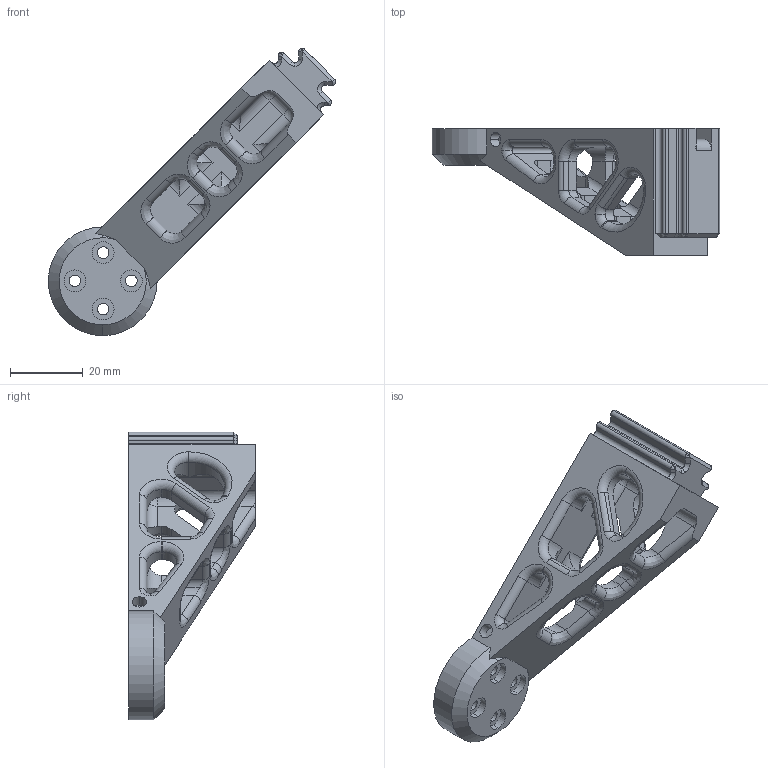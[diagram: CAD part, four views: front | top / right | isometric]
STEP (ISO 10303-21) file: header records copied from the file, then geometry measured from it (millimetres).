
FILE_DESCRIPTION (( 'STEP AP214' ), '1' );
FILE_NAME ('Arms.STEP', '2026-03-15T19:18:49', ( '' ), ( '' ), 'SwSTEP 2.0', 'SolidWorks 2026', '' );
FILE_SCHEMA (( 'AUTOMOTIVE_DESIGN' ));
Length unit declared in the file: millimetre
Products named in the file (1): Arms
Bounding box: 79.23 x 35 x 79.23 mm (x, y, z)
Volume: 26392.3 mm3; surface area: 12431.9 mm2
Topology: 1 solids, 1 shells, 241 faces, 625 edges, 376 vertices
Faces by surface type: cylinder 115, plane 66, torus 23, cone 23, bspline 12, sphere 2
Entity records: 7808 total; most frequent: CARTESIAN_POINT 2049, ORIENTED_EDGE 1232, DIRECTION 1207, EDGE_CURVE 616, AXIS2_PLACEMENT_3D 457, VERTEX_POINT 375, LINE 293, VECTOR 293
